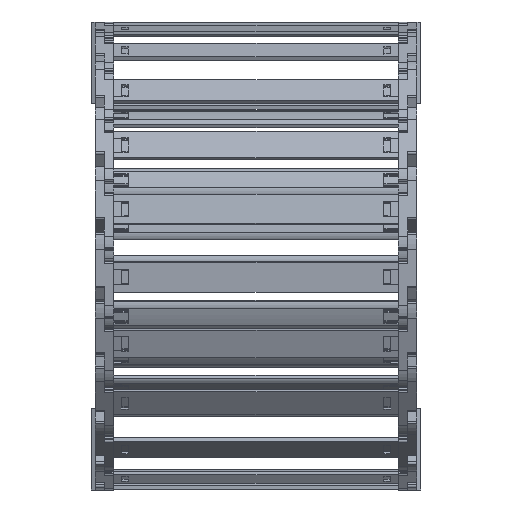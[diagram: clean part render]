
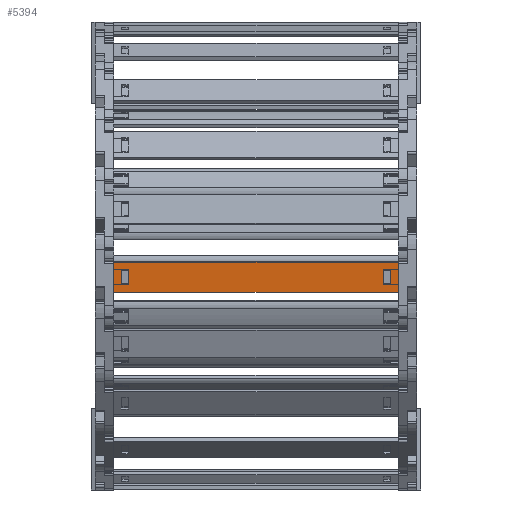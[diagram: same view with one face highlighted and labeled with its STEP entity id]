
A CAD part, left-side view. The second image highlights one B-rep face of the part: STEP entity #5394.
In plain terms, the highlighted planar face has unit normal (-0.996, 0, -0.087) as drawn and (0, 1, 0) by its records, which use the part's own axes.
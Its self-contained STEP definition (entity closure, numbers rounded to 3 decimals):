
#4814=DIRECTION('',(0.,0.,1.));
#4815=VECTOR('',#4814,15.8);
#4816=CARTESIAN_POINT('',(135.74,1.5,-7.9));
#4817=LINE('',#4816,#4815);
#4818=DIRECTION('',(-1.,0.,0.));
#4819=VECTOR('',#4818,150.5);
#4820=CARTESIAN_POINT('',(135.74,1.5,7.9));
#4821=LINE('',#4820,#4819);
#4822=DIRECTION('',(0.,0.,-1.));
#4823=VECTOR('',#4822,15.8);
#4824=CARTESIAN_POINT('',(-14.76,1.5,7.9));
#4825=LINE('',#4824,#4823);
#4826=DIRECTION('',(1.,0.,0.));
#4827=VECTOR('',#4826,3.648);
#4828=CARTESIAN_POINT('',(128.122,1.5,4.075));
#4829=LINE('',#4828,#4827);
#4830=DIRECTION('',(0.,0.,-1.));
#4831=VECTOR('',#4830,8.15);
#4832=CARTESIAN_POINT('',(131.77,1.5,4.075));
#4833=LINE('',#4832,#4831);
#4834=DIRECTION('',(-1.,0.,0.));
#4835=VECTOR('',#4834,3.648);
#4836=CARTESIAN_POINT('',(131.77,1.5,-4.075));
#4837=LINE('',#4836,#4835);
#4838=DIRECTION('',(0.,0.,-1.));
#4839=VECTOR('',#4838,8.15);
#4840=CARTESIAN_POINT('',(-7.142,1.5,4.075));
#4841=LINE('',#4840,#4839);
#4842=DIRECTION('',(-1.,0.,0.));
#4843=VECTOR('',#4842,3.648);
#4844=CARTESIAN_POINT('',(-7.142,1.5,-4.075));
#4845=LINE('',#4844,#4843);
#4846=DIRECTION('',(0.,0.,1.));
#4847=VECTOR('',#4846,8.15);
#4848=CARTESIAN_POINT('',(-10.79,1.5,-4.075));
#4849=LINE('',#4848,#4847);
#4850=DIRECTION('',(1.,0.,0.));
#4851=VECTOR('',#4850,3.648);
#4852=CARTESIAN_POINT('',(-10.79,1.5,4.075));
#4853=LINE('',#4852,#4851);
#4858=DIRECTION('',(-1.,0.,0.));
#4859=VECTOR('',#4858,150.5);
#4860=CARTESIAN_POINT('',(135.74,1.5,-7.9));
#4861=LINE('',#4860,#4859);
#4979=DIRECTION('',(0.,0.,-1.));
#4980=VECTOR('',#4979,8.15);
#4981=CARTESIAN_POINT('',(128.122,1.5,4.075));
#4982=LINE('',#4981,#4980);
#5164=CARTESIAN_POINT('',(131.77,1.5,4.075));
#5165=VERTEX_POINT('',#5164);
#5166=CARTESIAN_POINT('',(128.122,1.5,4.075));
#5167=VERTEX_POINT('',#5166);
#5208=CARTESIAN_POINT('',(128.122,1.5,-4.075));
#5209=VERTEX_POINT('',#5208);
#5210=CARTESIAN_POINT('',(131.77,1.5,-4.075));
#5211=VERTEX_POINT('',#5210);
#5212=CARTESIAN_POINT('',(135.74,1.5,7.9));
#5214=VERTEX_POINT('',#5212);
#5216=CARTESIAN_POINT('',(135.74,1.5,-7.9));
#5217=VERTEX_POINT('',#5216);
#5240=CARTESIAN_POINT('',(-7.142,1.5,4.075));
#5241=CARTESIAN_POINT('',(-7.142,1.5,-4.075));
#5242=VERTEX_POINT('',#5240);
#5243=VERTEX_POINT('',#5241);
#5244=CARTESIAN_POINT('',(-10.79,1.5,-4.075));
#5245=VERTEX_POINT('',#5244);
#5246=CARTESIAN_POINT('',(-10.79,1.5,4.075));
#5247=VERTEX_POINT('',#5246);
#5248=CARTESIAN_POINT('',(-14.76,1.5,7.9));
#5249=VERTEX_POINT('',#5248);
#5252=CARTESIAN_POINT('',(-14.76,1.5,-7.9));
#5253=VERTEX_POINT('',#5252);
#5363=CARTESIAN_POINT('',(167.48,1.5,10.061));
#5364=DIRECTION('',(0.,-1.,0.));
#5365=DIRECTION('',(0.,0.,-1.));
#5366=AXIS2_PLACEMENT_3D('',#5363,#5364,#5365);
#5367=PLANE('',#5366);
#5368=ORIENTED_EDGE('',*,*,#5302,.T.);
#5369=ORIENTED_EDGE('',*,*,#5328,.T.);
#5370=ORIENTED_EDGE('',*,*,#5341,.T.);
#5372=ORIENTED_EDGE('',*,*,#5371,.F.);
#5373=EDGE_LOOP('',(#5368,#5369,#5370,#5372));
#5374=FACE_OUTER_BOUND('',#5373,.F.);
#5376=ORIENTED_EDGE('',*,*,#5375,.F.);
#5377=ORIENTED_EDGE('',*,*,#5265,.T.);
#5379=ORIENTED_EDGE('',*,*,#5378,.T.);
#5381=ORIENTED_EDGE('',*,*,#5380,.T.);
#5382=EDGE_LOOP('',(#5376,#5377,#5379,#5381));
#5383=FACE_BOUND('',#5382,.F.);
#5385=ORIENTED_EDGE('',*,*,#5384,.T.);
#5387=ORIENTED_EDGE('',*,*,#5386,.T.);
#5389=ORIENTED_EDGE('',*,*,#5388,.T.);
#5391=ORIENTED_EDGE('',*,*,#5390,.T.);
#5392=EDGE_LOOP('',(#5385,#5387,#5389,#5391));
#5393=FACE_BOUND('',#5392,.F.);
#5394=ADVANCED_FACE('',(#5374,#5383,#5393),#5367,.F.);
#5265=EDGE_CURVE('',#5167,#5165,#4829,.T.);
#5302=EDGE_CURVE('',#5217,#5214,#4817,.T.);
#5328=EDGE_CURVE('',#5214,#5249,#4821,.T.);
#5341=EDGE_CURVE('',#5249,#5253,#4825,.T.);
#5371=EDGE_CURVE('',#5217,#5253,#4861,.T.);
#5375=EDGE_CURVE('',#5167,#5209,#4982,.T.);
#5378=EDGE_CURVE('',#5165,#5211,#4833,.T.);
#5380=EDGE_CURVE('',#5211,#5209,#4837,.T.);
#5384=EDGE_CURVE('',#5242,#5243,#4841,.T.);
#5386=EDGE_CURVE('',#5243,#5245,#4845,.T.);
#5388=EDGE_CURVE('',#5245,#5247,#4849,.T.);
#5390=EDGE_CURVE('',#5247,#5242,#4853,.T.);
